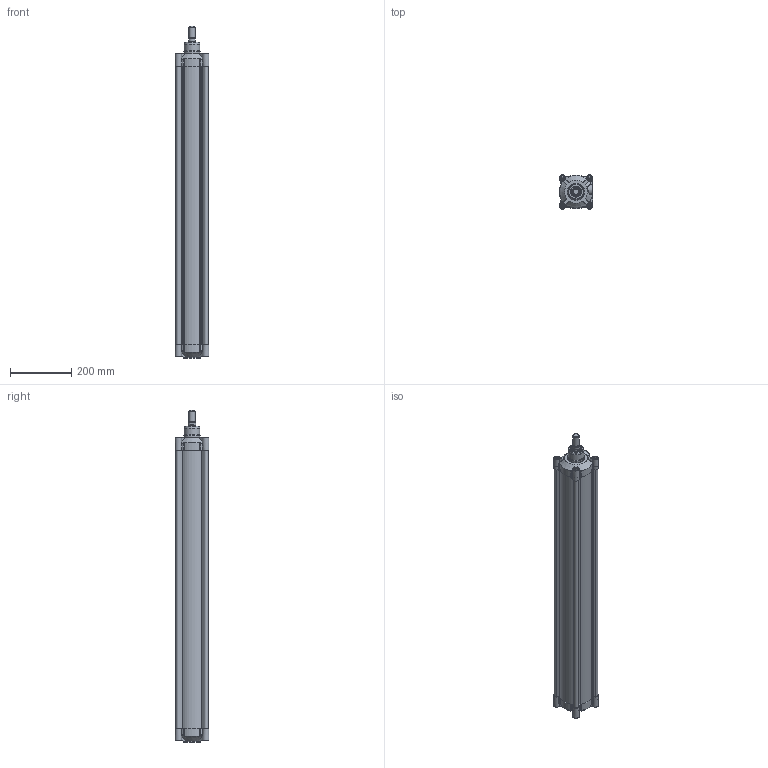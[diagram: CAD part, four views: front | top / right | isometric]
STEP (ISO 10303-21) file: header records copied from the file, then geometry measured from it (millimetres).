
FILE_DESCRIPTION(/* description */ (''),/* implementation_level */ '2;1');
FILE_NAME(/* name */ 'T:\Archivio Inventor\- 00 NUOVI STP PER SITO CON STELO CHE SI MUOVE\SERIE H - U\SERIE HDM\HDM100 - TUBO NUOVO\HDM100.850.GS.M.stp',/* time_stamp */ '2018-08-02T10:05:27+02:00',/* author */ ('carlo.corazza'),/* organization */ (''),/* preprocessor_version */ 'ST-DEVELOPER v16.5',/* originating_system */ 'Autodesk Inventor 2017',/* authorisation */ '');
FILE_SCHEMA (('AUTOMOTIVE_DESIGN { 1 0 10303 214 3 1 1 }'));
Length unit declared in the file: millimetre
Products named in the file (5): HDM100.850.GS.M; TP; TA; STELO-850; CORPO-850
Assembly tree (4 placements, depth 2):
  HDM100.850.GS.M
    TP
    TA
    STELO-850
    CORPO-850
Bounding box: 110 x 110 x 1083 mm (x, y, z)
Volume: 2532297.7 mm3; surface area: 1207197.1 mm2
Topology: 4 solids, 29 shells, 1355 faces, 3135 edges, 1912 vertices
Faces by surface type: plane 408, cylinder 313, bspline 270, torus 126, cone 122, sphere 116
Full cylindrical faces by diameter (mm): 5 x2, 5.9 x2, 6.5 x2, 7.25 x2, 8.376 x8, 9.4 x4, 10 x8, 10.3 x8, 11.8 x4, 11.9 x2, 12 x4, 16 x9, 16.3 x8, 17 x2, 17.5 x1, 18.631 x2, 20 x1, 24.5 x1, 25 x1, 25.8 x1, 25.962 x1, 30 x1, 31.5 x2, 35 x3, 52 x1, 55 x2, 100 x1
Entity records: 43668 total; most frequent: CARTESIAN_POINT 13702, ORIENTED_EDGE 5710, DIRECTION 5644, EDGE_CURVE 2855, AXIS2_PLACEMENT_3D 2293, VERTEX_POINT 1857, EDGE_LOOP 1690, STYLED_ITEM 1359
